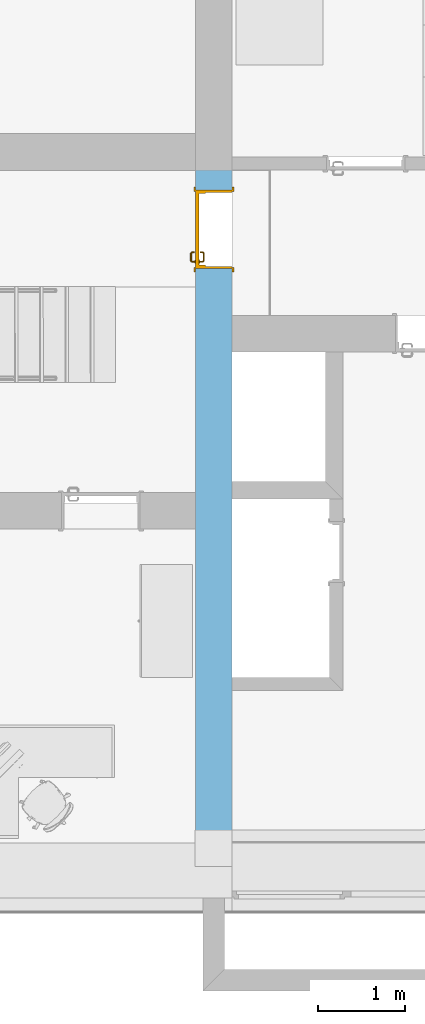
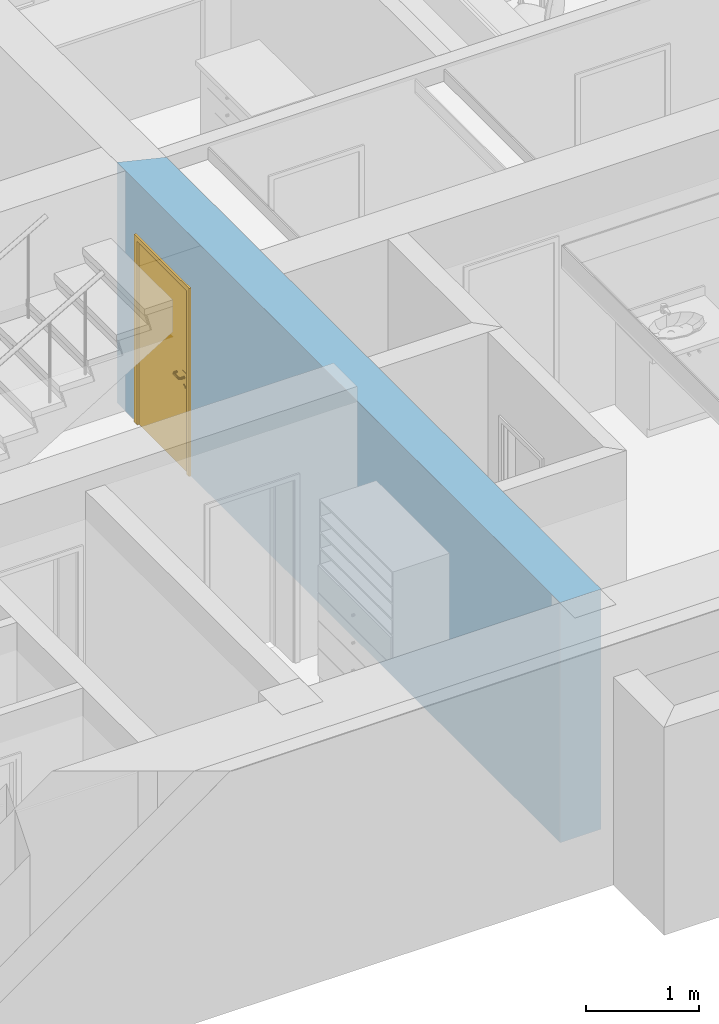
# One storey, part 57 of 127: 1 door, 1 opening, plus 1 element that does not belong to this part.
"""IFC2X3 building model written with IfcOpenShell, lengths in millimetres."""

from ifc_helpers import new_model, entity, si_unit, converted_unit, derived_unit, money_unit, direction, frame, origin_with_axes, origin_2d_with_axis, place, context, subcontext, project, spatial, polyline, rectangle, outline, extrude, open_shell, faceted_brep, surface_model, material, layer, layer_set, layer_usage, type_object, element, fill, save


model = new_model("IFC2X3")

# Units and contexts
model_context = context("Model", 3, precision=1e-05, world=origin_with_axes(), true_north=direction((0.0, 1.0)))
body_context = subcontext(model_context, "Body", "Model", "MODEL_VIEW")
ifc_project = project(units=[si_unit("LENGTHUNIT", "METRE", prefix="MILLI"), si_unit("AREAUNIT", "SQUARE_METRE"), si_unit("VOLUMEUNIT", "CUBIC_METRE"), converted_unit("PLANEANGLEUNIT", "DEGREE", entity("IfcPlaneAngleMeasure", 0.0174532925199), si_unit("PLANEANGLEUNIT", "RADIAN"), dimensions=[0, 0, 0, 0, 0, 0, 0]), si_unit("SOLIDANGLEUNIT", "STERADIAN"), money_unit("EUR"), converted_unit("TIMEUNIT", "Year", entity("IfcTimeMeasure", 31556926.0), si_unit("TIMEUNIT", "SECOND"), dimensions=[0, 0, 1, 0, 0, 0, 0]), si_unit("MASSUNIT", "GRAM", prefix="KILO"), si_unit("THERMODYNAMICTEMPERATUREUNIT", "DEGREE_CELSIUS"), si_unit("LUMINOUSINTENSITYUNIT", "LUMEN"), si_unit("ENERGYUNIT", "JOULE", prefix="MEGA"), derived_unit("THERMALCONDUCTANCEUNIT", [(si_unit("POWERUNIT", "WATT"), 1), (si_unit("LENGTHUNIT", "METRE"), -1), (si_unit("THERMODYNAMICTEMPERATUREUNIT", "KELVIN"), -1)]), derived_unit("SPECIFICHEATCAPACITYUNIT", [(si_unit("ENERGYUNIT", "JOULE"), 1), (si_unit("MASSUNIT", "GRAM", prefix="KILO"), -1), (si_unit("THERMODYNAMICTEMPERATUREUNIT", "KELVIN"), -1)]), derived_unit("MASSDENSITYUNIT", [(si_unit("MASSUNIT", "GRAM", prefix="KILO"), 1), (si_unit("VOLUMEUNIT", "CUBIC_METRE"), -1)])], contexts=[model_context])

# Site, building, storey
site_placement = place(None, origin_with_axes())
site = spatial("IfcSite", under=ifc_project, at=site_placement, Name="Site", CompositionType="ELEMENT")
building_placement = place(site_placement, origin_with_axes())
building = spatial("IfcBuilding", under=site, at=building_placement, Name="Building", CompositionType="ELEMENT")
storey_placement = place(building_placement, origin_with_axes())
storey = spatial("IfcBuildingStorey", under=building, at=storey_placement, Name="1 KORRUS", CompositionType="ELEMENT", Elevation=0.0)

# Wall, opening, door
ifc_material = material(Name="Kivi -Ol.Olev Konstruktsioon")
ifc_layer = layer(ifc_material, 420.0, ventilated="UNKNOWN")
ifc_layer_set = layer_set([ifc_layer], Name="ol.olev ss 420")
ifc_layer_usage = layer_usage(ifc_layer_set, "AXIS2", "POSITIVE", -420.0)
wall_type = type_object("IfcWallType", Name="SW - 022", PredefinedType="NOTDEFINED")
wall_placement = place(storey_placement, frame((16158.8775557, 67449.5917349, 0.0), z_axis=(0.0, 0.0, 1.0), x_axis=(0.0, -1.0, 0.0)))
wall = element("IfcWallStandardCase", 1, at=wall_placement, inside=storey, type_object=wall_type, material=ifc_layer_usage, Name="ol.olev ss 420", context=body_context, shape_type="SweptSolid", body=[
    extrude(outline(polyline([(0.0, -420.0), (7863.01195054, -420.0), (7862.96406213, 0.0), (150.0, 0.0), (0.0, -420.0)])), origin_with_axes(), (0.0, 0.0, 1.0), 2600.0),
])
opening_placement = place(wall_placement, frame((828.270254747, 0.0, 0.0), z_axis=(0.0, 0.0, 1.0), x_axis=(1.0, 0.0, 0.0)))
opening = element("IfcOpeningElement", 2, at=opening_placement, cuts=wall, Name="Siseuks * Door 22", context=body_context, shape_type="SweptSolid", body=[
    extrude(rectangle(XDim=900.0, YDim=2000.0, at=origin_2d_with_axis()), frame((0.0, 420.0, 1000.0), z_axis=(0.0, -1.0, 0.0), x_axis=(-1.0, 0.0, 0.0)), (0.0, 0.0, 1.0), 1260.0),
    extrude(rectangle(XDim=974.0, YDim=2037.0, at=origin_2d_with_axis()), frame((0.0, 0.0, 1018.5), z_axis=(0.0, -1.0, 0.0), x_axis=(-1.0, 0.0, 0.0)), (0.0, 0.0, -1.0), 420.0),
    extrude(rectangle(XDim=974.0, YDim=2037.0, at=origin_2d_with_axis()), frame((0.0, -420.0, 1018.5), z_axis=(0.0, 1.0, 0.0), x_axis=(-1.0, 0.0, 0.0)), (0.0, 0.0, -1.0), 420.0),
])
door_style = type_object("IfcDoorStyle", Name="SU-A101   900×2\xa0000", ConstructionType="NOTDEFINED", OperationType="SINGLE_SWING_RIGHT", ParameterTakesPrecedence=False, Sizeable=False)
door_placement = place(opening_placement, frame((450.0, 0.0, 0.0), z_axis=(0.0, 0.0, 1.0), x_axis=(-1.0, 0.0, 0.0)))
door = element("IfcDoor", 3, at=door_placement, inside=storey, type_object=door_style, Name="Siseuks * Door 22", OverallHeight=2000.0, OverallWidth=900.0, context=body_context, shape_type="SurfaceModel", body=[
    faceted_brep([(0.0, 305.0, 0.0), (24.9999999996, 305.0, 0.0), (24.9999999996, 0.0, 0.0), (0.0, 0.0, 0.0), (0.0, 305.0, 2000.0), (24.9999999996, 305.0, 1975.0), (24.9999999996, 0.0, 1975.0), (0.0, 0.0, 2000.0)], [[[0, 1, 2, 3]], [[0, 4, 5, 1]], [[1, 5, 6, 2]], [[3, 2, 6, 7]], [[4, 0, 3, 7]], [[5, 4, 7, 6]]]),
    faceted_brep([(900.0, 305.0, 2000.0), (875.0, 305.0, 1975.0), (875.0, 0.0, 1975.0), (900.0, 0.0, 2000.0), (900.0, 305.0, 0.0), (875.0, 305.0, 0.0), (875.0, 0.0, 0.0), (900.0, 0.0, 0.0)], [[[0, 1, 2, 3]], [[0, 4, 5, 1]], [[1, 5, 6, 2]], [[3, 2, 6, 7]], [[4, 0, 3, 7]], [[5, 4, 7, 6]]]),
    faceted_brep([(24.9999999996, 305.0, 1975.0), (875.0, 305.0, 1975.0), (875.0, 0.0, 1975.0), (24.9999999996, 0.0, 1975.0), (0.0, 305.0, 2000.0), (900.0, 305.0, 2000.0), (900.0, 0.0, 2000.0), (0.0, 0.0, 2000.0)], [[[0, 1, 2, 3]], [[0, 4, 5, 1]], [[1, 5, 6, 2]], [[3, 2, 6, 7]], [[4, 0, 3, 7]], [[5, 4, 7, 6]]]),
    faceted_brep([(-37.0000000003, -19.0, 0.0), (-37.0000000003, 0.0, 0.0), (12.9999999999, 0.0, 0.0), (12.9999999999, -19.0, 0.0), (-37.0000000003, -19.0, 2037.0), (-37.0000000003, 0.0, 2037.0), (12.9999999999, 0.0, 1987.0), (12.9999999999, -19.0, 1987.0)], [[[0, 1, 2, 3]], [[4, 5, 1, 0]], [[1, 5, 6, 2]], [[3, 2, 6, 7]], [[0, 3, 7, 4]], [[7, 6, 5, 4]]]),
    faceted_brep([(937.0, -19.0, 2037.0), (937.0, 0.0, 2037.0), (887.0, 0.0, 1987.0), (887.0, -19.0, 1987.0), (937.0, -19.0, 0.0), (937.0, 0.0, 0.0), (887.0, 0.0, 0.0), (887.0, -19.0, 0.0)], [[[0, 1, 2, 3]], [[4, 5, 1, 0]], [[1, 5, 6, 2]], [[3, 2, 6, 7]], [[0, 3, 7, 4]], [[7, 6, 5, 4]]]),
    faceted_brep([(-37.0000000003, -19.0, 2037.0), (-37.0000000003, 0.0, 2037.0), (12.9999999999, 0.0, 1987.0), (12.9999999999, -19.0, 1987.0), (937.0, -19.0, 2037.0), (937.0, 0.0, 2037.0), (887.0, 0.0, 1987.0), (887.0, -19.0, 1987.0)], [[[0, 1, 2, 3]], [[4, 5, 1, 0]], [[1, 5, 6, 2]], [[3, 2, 6, 7]], [[0, 3, 7, 4]], [[7, 6, 5, 4]]]),
    faceted_brep([(-37.0000000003, 439.0, 0.0), (12.9999999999, 439.0, 0.0), (12.9999999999, 420.0, 0.0), (-37.0000000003, 420.0, 0.0), (-37.0000000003, 439.0, 2037.0), (12.9999999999, 439.0, 1987.0), (12.9999999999, 420.0, 1987.0), (-37.0000000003, 420.0, 2037.0)], [[[0, 1, 2, 3]], [[0, 4, 5, 1]], [[1, 5, 6, 2]], [[3, 2, 6, 7]], [[4, 0, 3, 7]], [[5, 4, 7, 6]]]),
    faceted_brep([(937.0, 439.0, 2037.0), (887.0, 439.0, 1987.0), (887.0, 420.0, 1987.0), (937.0, 420.0, 2037.0), (937.0, 439.0, 0.0), (887.0, 439.0, 0.0), (887.0, 420.0, 0.0), (937.0, 420.0, 0.0)], [[[0, 1, 2, 3]], [[0, 4, 5, 1]], [[1, 5, 6, 2]], [[3, 2, 6, 7]], [[4, 0, 3, 7]], [[5, 4, 7, 6]]]),
    faceted_brep([(-37.0000000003, 439.0, 2037.0), (12.9999999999, 439.0, 1987.0), (12.9999999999, 420.0, 1987.0), (-37.0000000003, 420.0, 2037.0), (937.0, 439.0, 2037.0), (887.0, 439.0, 1987.0), (887.0, 420.0, 1987.0), (937.0, 420.0, 2037.0)], [[[0, 1, 2, 3]], [[0, 4, 5, 1]], [[1, 5, 6, 2]], [[3, 2, 6, 7]], [[4, 0, 3, 7]], [[5, 4, 7, 6]]]),
    faceted_brep([(40.0, 380.0, 0.0), (40.0, 380.0, 1960.0), (40.0, 305.0, 1960.0), (40.0, 305.0, 0.0), (28.0000000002, 380.0, 1960.0), (28.0000000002, 380.0, 0.0), (28.0000000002, 420.0, 1960.0), (0.0, 420.0, 1960.0), (0.0, 305.0, 1960.0), (0.0, 305.0, 0.0), (0.0, 420.0, 0.0), (28.0000000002, 420.0, 0.0)], [[[0, 1, 2, 3]], [[4, 1, 0, 5]], [[4, 6, 7, 8, 2, 1]], [[3, 2, 8, 9]], [[5, 0, 3, 9, 10, 11]], [[6, 4, 5, 11]], [[6, 11, 10, 7]], [[10, 9, 8, 7]]]),
    faceted_brep([(871.999999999, 380.0, 1960.0), (860.0, 380.0, 1960.0), (860.0, 305.0, 1960.0), (900.0, 305.0, 1960.0), (900.0, 420.0, 1960.0), (871.999999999, 420.0, 1960.0), (871.999999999, 380.0, 0.0), (860.0, 380.0, 0.0), (860.0, 305.0, 0.0), (900.0, 305.0, 0.0), (900.0, 420.0, 0.0), (871.999999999, 420.0, 0.0)], [[[0, 1, 2, 3, 4, 5]], [[1, 0, 6, 7]], [[1, 7, 8, 2]], [[3, 2, 8, 9]], [[4, 3, 9, 10]], [[11, 5, 4, 10]], [[0, 5, 11, 6]], [[6, 11, 10, 9, 8, 7]]]),
    faceted_brep([(28.0000000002, 420.0, 1972.0), (28.0000000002, 420.0, 1960.0), (0.0, 420.0, 1960.0), (0.0, 420.0, 2000.0), (900.0, 420.0, 2000.0), (900.0, 420.0, 1960.0), (871.999999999, 420.0, 1960.0), (871.999999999, 420.0, 1972.0), (28.0000000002, 380.0, 1972.0), (28.0000000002, 380.0, 1960.0), (40.0, 380.0, 1960.0), (40.0, 305.0, 1960.0), (0.0, 305.0, 1960.0), (0.0, 305.0, 2000.0), (900.0, 305.0, 2000.0), (900.0, 305.0, 1960.0), (871.999999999, 380.0, 1960.0), (860.0, 305.0, 1960.0), (860.0, 380.0, 1960.0), (871.999999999, 380.0, 1972.0)], [[[0, 1, 2, 3, 4, 5, 6, 7]], [[1, 0, 8, 9]], [[9, 10, 11, 12, 2, 1]], [[2, 12, 13, 3]], [[3, 13, 14, 4]], [[4, 14, 15, 5]], [[16, 6, 5, 15, 17, 18]], [[7, 6, 16, 19]], [[0, 7, 19, 8]], [[16, 18, 10, 9, 8, 19]], [[10, 18, 17, 11]], [[17, 15, 14, 13, 12, 11]]]),
    faceted_brep([(49.5000000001, 380.0, 1060.0), (49.5000000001, 377.0, 1060.0), (106.5, 377.0, 1060.0), (106.5, 380.0, 1060.0), (49.5000000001, 380.0, 870.0), (49.5000000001, 377.0, 870.0), (106.5, 377.0, 870.0), (106.5, 380.0, 870.0)], [[[0, 1, 2, 3]], [[4, 5, 1, 0]], [[1, 5, 6, 2]], [[3, 2, 6, 7]], [[0, 3, 7, 4]], [[7, 6, 5, 4]]]),
    surface_model("IfcShellBasedSurfaceModel", [(87.9999999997, 367.0, 1000.0), (87.9999999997, 347.984914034, 1000.0), (85.0710678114, 347.696439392, 992.928932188), (85.0710678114, 367.0, 992.928932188), (85.0710678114, 367.0, 1007.07106781), (85.0710678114, 347.696439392, 1007.07106781), (88.9422033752, 343.248137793, 1000.0), (86.1832095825, 342.105325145, 992.928932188), (77.9999999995, 347.0, 990.0), (77.9999999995, 367.0, 990.0), (77.9999999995, 367.0, 1010.0), (77.9999999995, 347.0, 1010.0), (86.1832095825, 342.105325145, 1007.07106781), (91.0674625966, 340.067462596, 1000.0), (88.955820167, 337.955820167, 992.928932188), (79.5224093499, 339.346331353, 990.0), (70.9289321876, 346.303560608, 992.928932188), (70.9289321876, 367.0, 992.928932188), (70.9289321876, 367.0, 1007.07106781), (70.9289321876, 346.303560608, 1007.07106781), (79.5224093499, 339.346331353, 1010.0), (88.955820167, 337.955820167, 1007.07106781), (94.2481377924, 337.942203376, 1000.0), (93.1053251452, 335.183209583, 992.928932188), (83.8578643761, 332.857864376, 990.0), (72.8616091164, 336.58733756, 992.928932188), (68.0000000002, 346.015085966, 1000.0), (68.0000000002, 367.0, 1000.0), (72.8616091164, 336.58733756, 1007.07106781), (83.8578643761, 332.857864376, 1010.0), (93.1053251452, 335.183209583, 1007.07106781), (98.9849140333, 337.0, 1000.0), (98.6964393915, 334.071067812, 992.928932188), (90.3463313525, 328.52240935, 990.0), (78.7599085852, 327.759908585, 992.928932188), (70.1026153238, 335.444524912, 1000.0), (78.7599085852, 327.759908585, 1007.07106781), (90.3463313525, 328.52240935, 1010.0), (98.6964393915, 334.071067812, 1007.07106781), (167.015085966, 337.0, 1000.0), (167.303560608, 334.071067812, 992.928932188), (98.0, 327.0, 990.0), (87.5873375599, 321.861609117, 992.928932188), (76.6482661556, 325.648266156, 1000.0), (87.5873375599, 321.861609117, 1007.07106781), (98.0, 327.0, 1010.0), (167.303560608, 334.071067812, 1007.07106781), (171.751862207, 337.942203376, 1000.0), (172.894674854, 335.183209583, 992.928932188), (168.0, 327.0, 990.0), (97.3035606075, 319.928932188, 992.928932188), (86.4445249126, 319.102615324, 1000.0), (97.3035606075, 319.928932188, 1007.07106781), (168.0, 327.0, 1010.0), (172.894674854, 335.183209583, 1007.07106781), (174.932537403, 340.067462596, 1000.0), (177.044179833, 337.955820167, 992.928932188), (175.653668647, 328.52240935, 990.0), (168.696439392, 319.928932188, 992.928932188), (97.0150859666, 317.0, 1000.0), (168.696439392, 319.928932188, 1007.07106781), (175.653668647, 328.52240935, 1010.0), (177.044179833, 337.955820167, 1007.07106781), (177.057796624, 343.248137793, 1000.0), (179.816790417, 342.105325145, 992.928932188), (182.142135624, 332.857864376, 990.0), (178.41266244, 321.861609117, 992.928932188), (168.984914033, 317.0, 1000.0), (178.41266244, 321.861609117, 1007.07106781), (182.142135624, 332.857864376, 1010.0), (179.816790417, 342.105325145, 1007.07106781), (178.0, 347.984914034, 1000.0), (180.928932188, 347.696439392, 992.928932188), (186.47759065, 339.346331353, 990.0), (187.240091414, 327.759908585, 992.928932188), (179.555475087, 319.102615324, 1000.0), (187.240091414, 327.759908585, 1007.07106781), (186.47759065, 339.346331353, 1010.0), (180.928932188, 347.696439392, 1007.07106781), (178.0, 367.0, 1000.0), (180.928932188, 367.0, 992.928932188), (188.0, 347.0, 990.0), (193.138390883, 336.58733756, 992.928932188), (189.351733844, 325.648266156, 1000.0), (193.138390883, 336.58733756, 1007.07106781), (188.0, 347.0, 1010.0), (180.928932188, 367.0, 1007.07106781), (188.0, 367.0, 1010.0), (195.071067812, 367.0, 1007.07106781), (197.999999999, 367.0, 1000.0), (195.071067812, 367.0, 992.928932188), (188.0, 367.0, 990.0), (195.071067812, 346.303560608, 992.928932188), (195.897384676, 335.444524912, 1000.0), (195.071067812, 346.303560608, 1007.07106781), (197.999999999, 346.015085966, 1000.0)], [open_shell([[[0, 1, 2, 3]], [[4, 5, 1, 0]], [[1, 6, 7, 2]], [[3, 2, 8, 9]], [[10, 11, 5, 4]], [[5, 12, 6, 1]], [[6, 13, 14, 7]], [[2, 7, 15, 8]], [[9, 8, 16, 17]], [[18, 19, 11, 10]], [[11, 20, 12, 5]], [[12, 21, 13, 6]], [[13, 22, 23, 14]], [[7, 14, 24, 15]], [[8, 15, 25, 16]], [[17, 16, 26, 27]], [[27, 26, 19, 18]], [[19, 28, 20, 11]], [[20, 29, 21, 12]], [[21, 30, 22, 13]], [[22, 31, 32, 23]], [[14, 23, 33, 24]], [[15, 24, 34, 25]], [[16, 25, 35, 26]], [[26, 35, 28, 19]], [[28, 36, 29, 20]], [[29, 37, 30, 21]], [[30, 38, 31, 22]], [[31, 39, 40, 32]], [[23, 32, 41, 33]], [[24, 33, 42, 34]], [[25, 34, 43, 35]], [[35, 43, 36, 28]], [[36, 44, 37, 29]], [[37, 45, 38, 30]], [[38, 46, 39, 31]], [[39, 47, 48, 40]], [[32, 40, 49, 41]], [[33, 41, 50, 42]], [[34, 42, 51, 43]], [[43, 51, 44, 36]], [[44, 52, 45, 37]], [[45, 53, 46, 38]], [[46, 54, 47, 39]], [[47, 55, 56, 48]], [[40, 48, 57, 49]], [[41, 49, 58, 50]], [[42, 50, 59, 51]], [[51, 59, 52, 44]], [[52, 60, 53, 45]], [[53, 61, 54, 46]], [[54, 62, 55, 47]], [[55, 63, 64, 56]], [[48, 56, 65, 57]], [[49, 57, 66, 58]], [[50, 58, 67, 59]], [[59, 67, 60, 52]], [[60, 68, 61, 53]], [[61, 69, 62, 54]], [[62, 70, 63, 55]], [[63, 71, 72, 64]], [[56, 64, 73, 65]], [[57, 65, 74, 66]], [[58, 66, 75, 67]], [[67, 75, 68, 60]], [[68, 76, 69, 61]], [[69, 77, 70, 62]], [[70, 78, 71, 63]], [[71, 79, 80, 72]], [[64, 72, 81, 73]], [[65, 73, 82, 74]], [[66, 74, 83, 75]], [[75, 83, 76, 68]], [[76, 84, 77, 69]], [[77, 85, 78, 70]], [[78, 86, 79, 71]], [[79, 86, 87, 88, 89, 90, 91, 80]], [[72, 80, 91, 81]], [[73, 81, 92, 82]], [[74, 82, 93, 83]], [[83, 93, 84, 76]], [[84, 94, 85, 77]], [[85, 87, 86, 78]], [[94, 88, 87, 85]], [[95, 89, 88, 94]], [[92, 90, 89, 95]], [[81, 91, 90, 92]], [[82, 92, 95, 93]], [[93, 95, 94, 84]]])]),
    faceted_brep([(88.392304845, 367.0, 994.0), (89.2583302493, 377.0, 993.5), (90.9999999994, 377.0, 1000.0), (90.0000000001, 367.0, 1000.0), (83.9999999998, 367.0, 989.607695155), (84.4999999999, 377.0, 988.741669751), (77.9999999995, 377.0, 987.0), (71.5, 377.0, 988.741669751), (66.7416697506, 377.0, 993.5), (64.9999999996, 377.0, 1000.0), (66.7416697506, 377.0, 1006.5), (71.5, 377.0, 1011.25833025), (77.9999999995, 377.0, 1013.0), (84.4999999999, 377.0, 1011.25833025), (89.2583302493, 377.0, 1006.5), (88.392304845, 367.0, 1006.0), (83.9999999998, 367.0, 1010.39230485), (77.9999999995, 367.0, 1012.0), (72.0000000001, 367.0, 1010.39230485), (67.607695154, 367.0, 1006.0), (65.9999999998, 367.0, 1000.0), (67.607695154, 367.0, 994.0), (72.0000000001, 367.0, 989.607695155), (77.9999999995, 367.0, 988.0)], [[[0, 1, 2, 3]], [[4, 5, 1, 0]], [[2, 1, 5, 6, 7, 8, 9, 10, 11, 12, 13, 14]], [[3, 2, 14, 15]], [[3, 15, 16, 17, 18, 19, 20, 21, 22, 23, 4, 0]], [[23, 6, 5, 4]], [[22, 7, 6, 23]], [[21, 8, 7, 22]], [[20, 9, 8, 21]], [[19, 10, 9, 20]], [[18, 11, 10, 19]], [[17, 12, 11, 18]], [[16, 13, 12, 17]], [[15, 14, 13, 16]]]),
    faceted_brep([(95.3205080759, 373.0, 895.0), (97.0525588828, 377.0, 894.0), (99.9999999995, 377.0, 905.0), (98.0, 373.0, 905.0), (87.9999999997, 373.0, 887.679491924), (88.9999999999, 377.0, 885.947441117), (77.9999999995, 377.0, 883.0), (67.0, 377.0, 885.947441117), (58.9474411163, 377.0, 894.0), (55.9999999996, 377.0, 905.0), (58.9474411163, 377.0, 916.0), (67.0, 377.0, 924.052558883), (77.9999999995, 377.0, 927.0), (88.9999999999, 377.0, 924.052558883), (97.0525588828, 377.0, 916.0), (95.3205080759, 373.0, 915.0), (87.9999999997, 373.0, 922.320508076), (77.9999999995, 373.0, 925.0), (68.0000000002, 373.0, 922.320508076), (60.679491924, 373.0, 915.0), (58.0, 373.0, 905.0), (60.679491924, 373.0, 895.0), (68.0000000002, 373.0, 887.679491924), (77.9999999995, 373.0, 885.0)], [[[0, 1, 2, 3]], [[4, 5, 1, 0]], [[2, 1, 5, 6, 7, 8, 9, 10, 11, 12, 13, 14]], [[3, 2, 14, 15]], [[3, 15, 16, 17, 18, 19, 20, 21, 22, 23, 4, 0]], [[23, 6, 5, 4]], [[22, 7, 6, 23]], [[21, 8, 7, 22]], [[20, 9, 8, 21]], [[19, 10, 9, 20]], [[18, 11, 10, 19]], [[17, 12, 11, 18]], [[16, 13, 12, 17]], [[15, 14, 13, 16]]]),
    faceted_brep([(82.9497474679, 371.0, 909.050252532), (83.6568542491, 373.0, 908.343145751), (86.0000000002, 373.0, 914.0), (85.0, 371.0, 914.0), (77.9999999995, 371.0, 907.0), (77.9999999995, 373.0, 906.0), (72.34314575, 373.0, 908.343145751), (69.9999999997, 373.0, 914.0), (72.34314575, 373.0, 919.656854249), (77.9999999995, 373.0, 922.0), (83.6568542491, 373.0, 919.656854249), (82.9497474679, 371.0, 918.949747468), (77.9999999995, 371.0, 921.0), (73.0502525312, 371.0, 918.949747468), (70.9999999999, 371.0, 914.0), (73.0502525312, 371.0, 909.050252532)], [[[0, 1, 2, 3]], [[4, 5, 1, 0]], [[2, 1, 5, 6, 7, 8, 9, 10]], [[3, 2, 10, 11]], [[3, 11, 12, 13, 14, 15, 4, 0]], [[15, 6, 5, 4]], [[14, 7, 6, 15]], [[13, 8, 7, 14]], [[12, 9, 8, 13]], [[11, 10, 9, 12]]]),
    faceted_brep([(49.5000000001, 420.0, 1060.0), (106.5, 420.0, 1060.0), (106.5, 423.0, 1060.0), (49.5000000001, 423.0, 1060.0), (49.5000000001, 420.0, 870.0), (106.5, 420.0, 870.0), (106.5, 423.0, 870.0), (49.5000000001, 423.0, 870.0)], [[[0, 1, 2, 3]], [[0, 4, 5, 1]], [[1, 5, 6, 2]], [[3, 2, 6, 7]], [[4, 0, 3, 7]], [[5, 4, 7, 6]]]),
    surface_model("IfcShellBasedSurfaceModel", [(87.9999999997, 433.0, 1000.0), (85.0710678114, 433.0, 992.928932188), (85.0710678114, 452.303560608, 992.928932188), (87.9999999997, 452.015085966, 1000.0), (77.9999999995, 433.0, 990.0), (77.9999999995, 453.0, 990.0), (86.1832095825, 457.894674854, 992.928932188), (88.9422033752, 456.751862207, 1000.0), (85.0710678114, 433.0, 1007.07106781), (85.0710678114, 452.303560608, 1007.07106781), (70.9289321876, 433.0, 992.928932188), (70.9289321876, 453.696439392, 992.928932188), (79.5224093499, 460.653668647, 990.0), (88.955820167, 462.044179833, 992.928932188), (91.0674625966, 459.932537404, 1000.0), (86.1832095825, 457.894674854, 1007.07106781), (77.9999999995, 433.0, 1010.0), (77.9999999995, 453.0, 1010.0), (68.0000000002, 433.0, 1000.0), (68.0000000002, 453.984914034, 1000.0), (72.8616091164, 463.41266244, 992.928932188), (83.8578643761, 467.142135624, 990.0), (93.1053251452, 464.816790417, 992.928932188), (94.2481377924, 462.057796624, 1000.0), (88.955820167, 462.044179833, 1007.07106781), (79.5224093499, 460.653668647, 1010.0), (70.9289321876, 433.0, 1007.07106781), (70.9289321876, 453.696439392, 1007.07106781), (70.1026153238, 464.555475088, 1000.0), (78.7599085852, 472.240091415, 992.928932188), (90.3463313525, 471.47759065, 990.0), (98.6964393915, 465.928932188, 992.928932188), (98.9849140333, 463.0, 1000.0), (93.1053251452, 464.816790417, 1007.07106781), (83.8578643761, 467.142135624, 1010.0), (72.8616091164, 463.41266244, 1007.07106781), (76.6482661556, 474.351733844, 1000.0), (87.5873375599, 478.138390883, 992.928932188), (98.0, 473.0, 990.0), (167.303560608, 465.928932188, 992.928932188), (167.015085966, 463.0, 1000.0), (98.6964393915, 465.928932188, 1007.07106781), (90.3463313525, 471.47759065, 1010.0), (78.7599085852, 472.240091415, 1007.07106781), (86.4445249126, 480.897384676, 1000.0), (97.3035606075, 480.071067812, 992.928932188), (168.0, 473.0, 990.0), (172.894674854, 464.816790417, 992.928932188), (171.751862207, 462.057796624, 1000.0), (167.303560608, 465.928932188, 1007.07106781), (98.0, 473.0, 1010.0), (87.5873375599, 478.138390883, 1007.07106781), (97.0150859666, 483.0, 1000.0), (168.696439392, 480.071067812, 992.928932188), (175.653668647, 471.47759065, 990.0), (177.044179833, 462.044179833, 992.928932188), (174.932537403, 459.932537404, 1000.0), (172.894674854, 464.816790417, 1007.07106781), (168.0, 473.0, 1010.0), (97.3035606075, 480.071067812, 1007.07106781), (168.984914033, 483.0, 1000.0), (178.41266244, 478.138390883, 992.928932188), (182.142135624, 467.142135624, 990.0), (179.816790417, 457.894674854, 992.928932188), (177.057796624, 456.751862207, 1000.0), (177.044179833, 462.044179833, 1007.07106781), (175.653668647, 471.47759065, 1010.0), (168.696439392, 480.071067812, 1007.07106781), (179.555475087, 480.897384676, 1000.0), (187.240091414, 472.240091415, 992.928932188), (186.47759065, 460.653668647, 990.0), (180.928932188, 452.303560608, 992.928932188), (178.0, 452.015085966, 1000.0), (179.816790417, 457.894674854, 1007.07106781), (182.142135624, 467.142135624, 1010.0), (178.41266244, 478.138390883, 1007.07106781), (189.351733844, 474.351733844, 1000.0), (193.138390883, 463.41266244, 992.928932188), (188.0, 453.0, 990.0), (180.928932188, 433.0, 992.928932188), (178.0, 433.0, 1000.0), (180.928932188, 452.303560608, 1007.07106781), (186.47759065, 460.653668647, 1010.0), (187.240091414, 472.240091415, 1007.07106781), (195.897384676, 464.555475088, 1000.0), (195.071067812, 453.696439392, 992.928932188), (188.0, 433.0, 990.0), (195.071067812, 433.0, 992.928932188), (197.999999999, 433.0, 1000.0), (195.071067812, 433.0, 1007.07106781), (188.0, 433.0, 1010.0), (180.928932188, 433.0, 1007.07106781), (188.0, 453.0, 1010.0), (193.138390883, 463.41266244, 1007.07106781), (197.999999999, 453.984914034, 1000.0), (195.071067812, 453.696439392, 1007.07106781)], [open_shell([[[0, 1, 2, 3]], [[1, 4, 5, 2]], [[3, 2, 6, 7]], [[8, 0, 3, 9]], [[4, 10, 11, 5]], [[2, 5, 12, 6]], [[7, 6, 13, 14]], [[9, 3, 7, 15]], [[16, 8, 9, 17]], [[10, 18, 19, 11]], [[5, 11, 20, 12]], [[6, 12, 21, 13]], [[14, 13, 22, 23]], [[15, 7, 14, 24]], [[17, 9, 15, 25]], [[26, 16, 17, 27]], [[18, 26, 27, 19]], [[11, 19, 28, 20]], [[12, 20, 29, 21]], [[13, 21, 30, 22]], [[23, 22, 31, 32]], [[24, 14, 23, 33]], [[25, 15, 24, 34]], [[27, 17, 25, 35]], [[19, 27, 35, 28]], [[20, 28, 36, 29]], [[21, 29, 37, 30]], [[22, 30, 38, 31]], [[32, 31, 39, 40]], [[33, 23, 32, 41]], [[34, 24, 33, 42]], [[35, 25, 34, 43]], [[28, 35, 43, 36]], [[29, 36, 44, 37]], [[30, 37, 45, 38]], [[31, 38, 46, 39]], [[40, 39, 47, 48]], [[41, 32, 40, 49]], [[42, 33, 41, 50]], [[43, 34, 42, 51]], [[36, 43, 51, 44]], [[37, 44, 52, 45]], [[38, 45, 53, 46]], [[39, 46, 54, 47]], [[48, 47, 55, 56]], [[49, 40, 48, 57]], [[50, 41, 49, 58]], [[51, 42, 50, 59]], [[44, 51, 59, 52]], [[45, 52, 60, 53]], [[46, 53, 61, 54]], [[47, 54, 62, 55]], [[56, 55, 63, 64]], [[57, 48, 56, 65]], [[58, 49, 57, 66]], [[59, 50, 58, 67]], [[52, 59, 67, 60]], [[53, 60, 68, 61]], [[54, 61, 69, 62]], [[55, 62, 70, 63]], [[64, 63, 71, 72]], [[65, 56, 64, 73]], [[66, 57, 65, 74]], [[67, 58, 66, 75]], [[60, 67, 75, 68]], [[61, 68, 76, 69]], [[62, 69, 77, 70]], [[63, 70, 78, 71]], [[72, 71, 79, 80]], [[73, 64, 72, 81]], [[74, 65, 73, 82]], [[75, 66, 74, 83]], [[68, 75, 83, 76]], [[69, 76, 84, 77]], [[70, 77, 85, 78]], [[71, 78, 86, 79]], [[80, 79, 86, 87, 88, 89, 90, 91]], [[81, 72, 80, 91]], [[82, 73, 81, 92]], [[83, 74, 82, 93]], [[76, 83, 93, 84]], [[77, 84, 94, 85]], [[78, 85, 87, 86]], [[85, 94, 88, 87]], [[94, 95, 89, 88]], [[95, 92, 90, 89]], [[92, 81, 91, 90]], [[93, 82, 92, 95]], [[84, 93, 95, 94]]])]),
    faceted_brep([(88.392304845, 433.0, 994.0), (90.0000000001, 433.0, 1000.0), (90.9999999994, 423.0, 1000.0), (89.2583302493, 423.0, 993.5), (83.9999999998, 433.0, 989.607695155), (77.9999999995, 433.0, 988.0), (72.0000000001, 433.0, 989.607695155), (67.607695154, 433.0, 994.0), (65.9999999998, 433.0, 1000.0), (67.607695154, 433.0, 1006.0), (72.0000000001, 433.0, 1010.39230485), (77.9999999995, 433.0, 1012.0), (83.9999999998, 433.0, 1010.39230485), (88.392304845, 433.0, 1006.0), (89.2583302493, 423.0, 1006.5), (84.4999999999, 423.0, 1011.25833025), (77.9999999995, 423.0, 1013.0), (71.5, 423.0, 1011.25833025), (66.7416697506, 423.0, 1006.5), (64.9999999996, 423.0, 1000.0), (66.7416697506, 423.0, 993.5), (71.5, 423.0, 988.741669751), (77.9999999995, 423.0, 987.0), (84.4999999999, 423.0, 988.741669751)], [[[0, 1, 2, 3]], [[1, 0, 4, 5, 6, 7, 8, 9, 10, 11, 12, 13]], [[1, 13, 14, 2]], [[2, 14, 15, 16, 17, 18, 19, 20, 21, 22, 23, 3]], [[4, 0, 3, 23]], [[5, 4, 23, 22]], [[6, 5, 22, 21]], [[7, 6, 21, 20]], [[8, 7, 20, 19]], [[9, 8, 19, 18]], [[10, 9, 18, 17]], [[11, 10, 17, 16]], [[12, 11, 16, 15]], [[13, 12, 15, 14]]]),
    faceted_brep([(95.3205080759, 427.0, 895.0), (98.0, 427.0, 905.0), (99.9999999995, 423.0, 905.0), (97.0525588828, 423.0, 894.0), (87.9999999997, 427.0, 887.679491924), (77.9999999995, 427.0, 885.0), (68.0000000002, 427.0, 887.679491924), (60.679491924, 427.0, 895.0), (58.0, 427.0, 905.0), (60.679491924, 427.0, 915.0), (68.0000000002, 427.0, 922.320508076), (77.9999999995, 427.0, 925.0), (87.9999999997, 427.0, 922.320508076), (95.3205080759, 427.0, 915.0), (97.0525588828, 423.0, 916.0), (88.9999999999, 423.0, 924.052558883), (77.9999999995, 423.0, 927.0), (67.0, 423.0, 924.052558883), (58.9474411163, 423.0, 916.0), (55.9999999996, 423.0, 905.0), (58.9474411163, 423.0, 894.0), (67.0, 423.0, 885.947441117), (77.9999999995, 423.0, 883.0), (88.9999999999, 423.0, 885.947441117)], [[[0, 1, 2, 3]], [[1, 0, 4, 5, 6, 7, 8, 9, 10, 11, 12, 13]], [[1, 13, 14, 2]], [[2, 14, 15, 16, 17, 18, 19, 20, 21, 22, 23, 3]], [[4, 0, 3, 23]], [[5, 4, 23, 22]], [[6, 5, 22, 21]], [[7, 6, 21, 20]], [[8, 7, 20, 19]], [[9, 8, 19, 18]], [[10, 9, 18, 17]], [[11, 10, 17, 16]], [[12, 11, 16, 15]], [[13, 12, 15, 14]]]),
    faceted_brep([(82.9497474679, 429.0, 909.050252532), (85.0, 429.0, 914.0), (86.0000000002, 427.0, 914.0), (83.6568542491, 427.0, 908.343145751), (77.9999999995, 429.0, 907.0), (73.0502525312, 429.0, 909.050252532), (70.9999999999, 429.0, 914.0), (73.0502525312, 429.0, 918.949747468), (77.9999999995, 429.0, 921.0), (82.9497474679, 429.0, 918.949747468), (83.6568542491, 427.0, 919.656854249), (77.9999999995, 427.0, 922.0), (72.34314575, 427.0, 919.656854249), (69.9999999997, 427.0, 914.0), (72.34314575, 427.0, 908.343145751), (77.9999999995, 427.0, 906.0)], [[[0, 1, 2, 3]], [[1, 0, 4, 5, 6, 7, 8, 9]], [[1, 9, 10, 2]], [[2, 10, 11, 12, 13, 14, 15, 3]], [[4, 0, 3, 15]], [[5, 4, 15, 14]], [[6, 5, 14, 13]], [[7, 6, 13, 12]], [[8, 7, 12, 11]], [[9, 8, 11, 10]]]),
    faceted_brep([(871.999999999, 420.0, 0.0), (871.999999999, 380.0, 0.0), (28.0000000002, 380.0, 0.0), (28.0000000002, 420.0, 0.0), (871.999999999, 420.0, 1972.0), (871.999999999, 380.0, 1972.0), (28.0000000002, 380.0, 1972.0), (28.0000000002, 420.0, 1972.0)], [[[0, 1, 2, 3]], [[4, 5, 1, 0]], [[1, 5, 6, 2]], [[3, 2, 6, 7]], [[0, 3, 7, 4]], [[7, 6, 5, 4]]]),
])
fill(opening, door)

save(model, "model.ifc")
